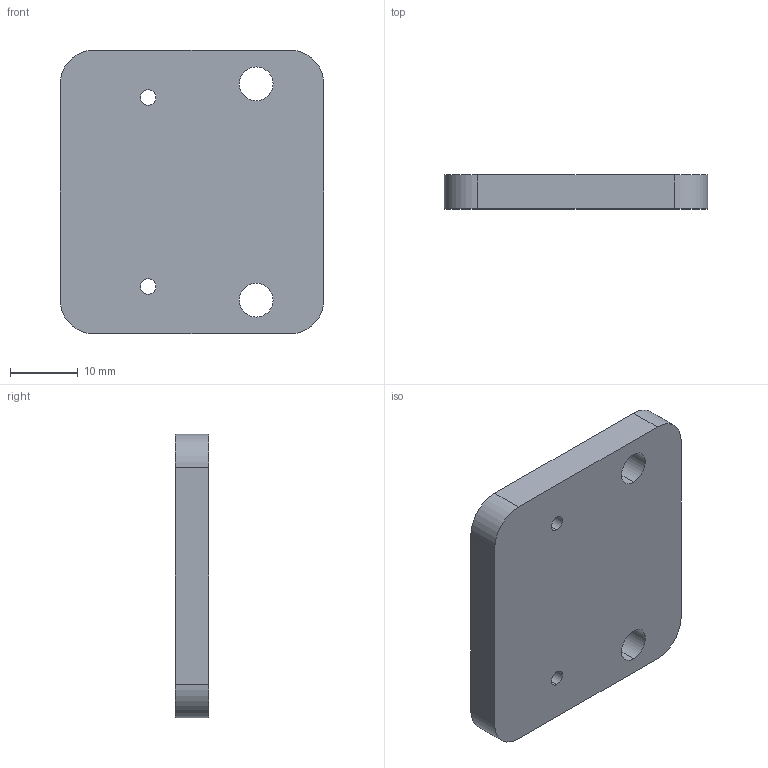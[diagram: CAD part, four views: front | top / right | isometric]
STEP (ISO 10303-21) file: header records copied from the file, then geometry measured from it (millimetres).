
FILE_DESCRIPTION((''),'2;1');
FILE_NAME('0000187300','2024-01-01T18:44:33',('Wyndorps'),(''),'CREO PARAMETRIC BY PTC INC, 2022484','CREO PARAMETRIC BY PTC INC, 2022484','');
FILE_SCHEMA(('CONFIG_CONTROL_DESIGN'));
Length unit declared in the file: millimetre
Products named in the file (1): 0000187300
Bounding box: 39 x 5 x 42 mm (x, y, z)
Volume: 7844.8 mm3; surface area: 4134.3 mm2
Topology: 1 solids, 1 shells, 18 faces, 48 edges, 32 vertices
Faces by surface type: cylinder 12, plane 6
Entity records: 630 total; most frequent: DIRECTION 108, CARTESIAN_POINT 98, ORIENTED_EDGE 96, EDGE_CURVE 48, AXIS2_PLACEMENT_3D 42, VERTEX_POINT 32, EDGE_LOOP 26, VECTOR 24
